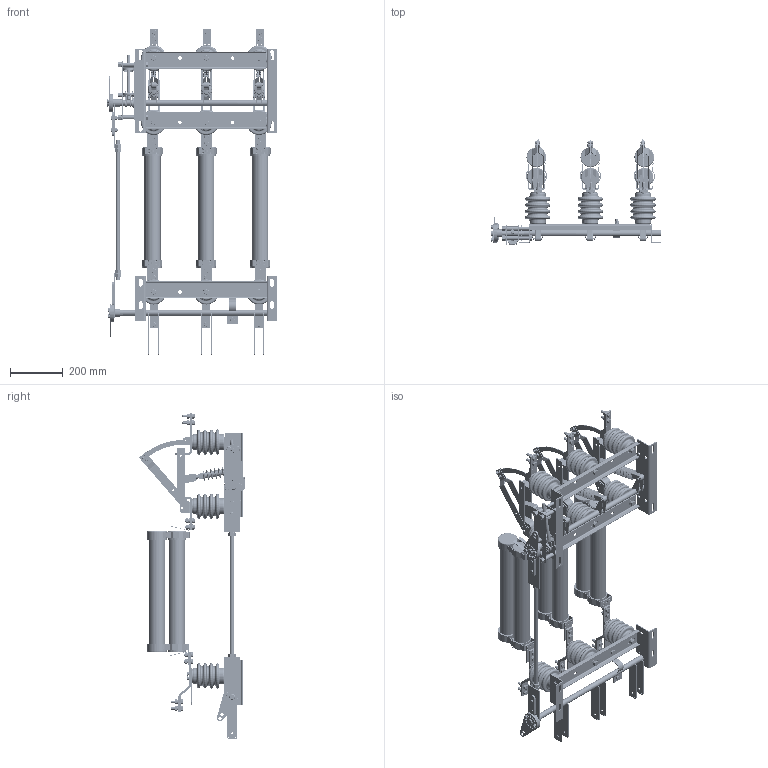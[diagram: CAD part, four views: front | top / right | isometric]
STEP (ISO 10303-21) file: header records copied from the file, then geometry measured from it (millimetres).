
FILE_DESCRIPTION (( 'STEP AP214' ), '1' );
FILE_NAME ('Âûêëþ÷àòåëü íàãðóçêè ÂÍÀ-10630-Ï-ç-ÏÒ1.3-È2-ÓÕË2-ÊÝÀÇ.STEP', '2023-02-01T06:55:26', ( '' ), ( '' ), 'SwSTEP 2.0', 'SolidWorks 2018', '' );
FILE_SCHEMA (( 'AUTOMOTIVE_DESIGN' ));
Length unit declared in the file: millimetre
Products named in the file (1): Âûêëþ÷àòåëü íàãðóçêè ÂÍÀ-10630-Ï-ç-ÏÒ1.3-È2-ÓÕË2-ÊÝÀÇ
Bounding box: 647.2 x 402.34 x 1237.98 mm (x, y, z)
Volume: 17787800.6 mm3; surface area: 2642634.3 mm2
Topology: 1 solids, 59 shells, 6021 faces, 15158 edges, 9553 vertices
Faces by surface type: plane 2968, cylinder 2029, cone 722, torus 296, bspline 6
Full cylindrical faces by diameter (mm): 4.2 x24, 8.2 x2, 8.993 x5, 9 x6, 9.5 x18, 10.8 x26, 12.35 x14, 12.704 x1, 12.915 x1, 12.977 x1, 13.051 x3, 14.508 x4, 15.19 x4, 16 x1, 16.205 x4, 17.1 x3, 22 x3, 62 x3, 70 x7, 75 x6
Entity records: 220292 total; most frequent: CARTESIAN_POINT 75774, DIRECTION 30515, ORIENTED_EDGE 29856, EDGE_CURVE 14928, AXIS2_PLACEMENT_3D 11648, VERTEX_POINT 9466, LINE 7219, VECTOR 7219
